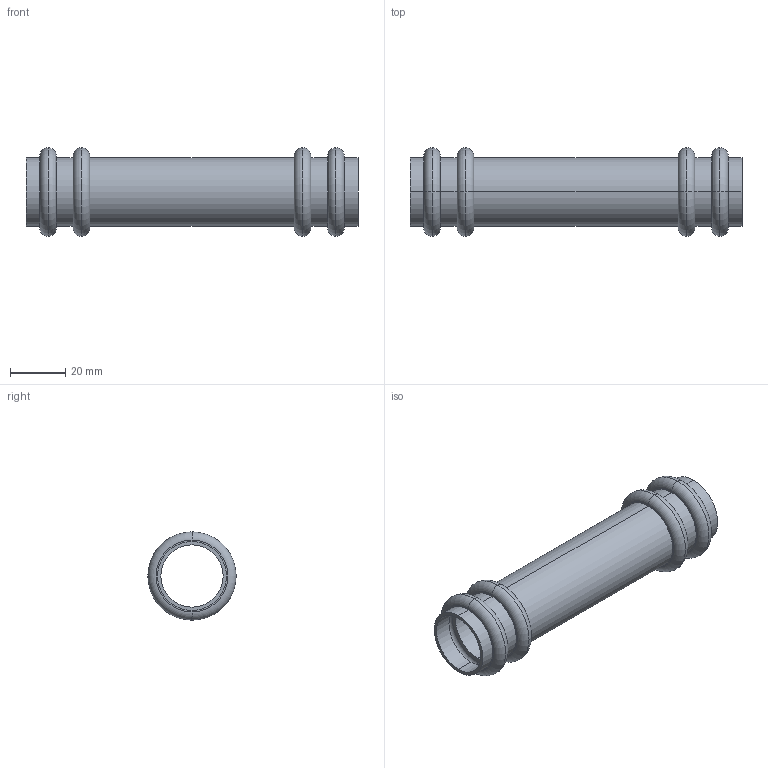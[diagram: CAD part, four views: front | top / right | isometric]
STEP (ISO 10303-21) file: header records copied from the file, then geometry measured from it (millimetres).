
FILE_DESCRIPTION(('starvars output'),'1');
FILE_NAME('cv20240422104925000011579.stp','10:49:25 2024/04/22',('Thomas Industrial Network Germany GmbH'),(' '),'Spatial InterOp 3D',' ',' ');
FILE_SCHEMA(('AUTOMOTIVE_DESIGN { 1 0 10303 214 3 1 1 }'));
Length unit declared in the file: millimetre
Products named in the file (1): 1
Bounding box: 119.89 x 31.9 x 31.9 mm (x, y, z)
Volume: 13404.9 mm3; surface area: 21949.1 mm2
Topology: 1 solids, 1 shells, 70 faces, 140 edges, 88 vertices
Faces by surface type: torus 32, cylinder 20, plane 18
Entity records: 2464 total; most frequent: DIRECTION 402, CARTESIAN_POINT 299, ORIENTED_EDGE 280, AXIS2_PLACEMENT_3D 191, EDGE_CURVE 140, CIRCLE 120, EDGE_LOOP 88, VERTEX_POINT 88
